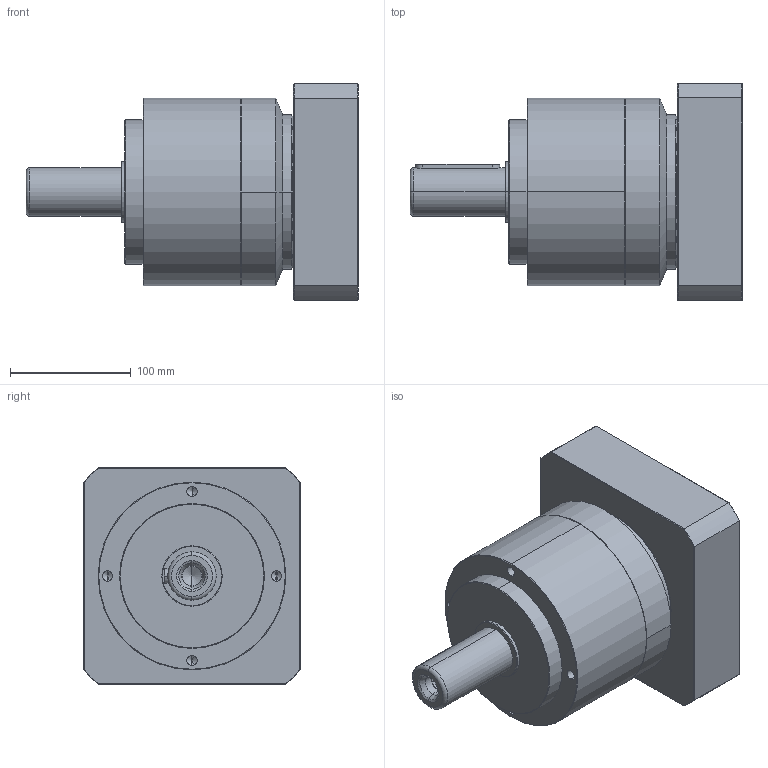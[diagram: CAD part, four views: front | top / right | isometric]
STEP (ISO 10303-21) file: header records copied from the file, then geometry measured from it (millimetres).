
FILE_DESCRIPTION (( 'STEP AP203' ), '1' );
FILE_NAME ('TCE155-L1-35-114.3-200-M12-91-15.STEP', '2020-11-24T08:15:49', ( '' ), ( '' ), 'SwSTEP 2.0', 'SolidWorks 2017', '' );
FILE_SCHEMA (( 'CONFIG_CONTROL_DESIGN' ));
Length unit declared in the file: millimetre
Products named in the file (1): TCE155-L1-35-114.3-200-M12-91-15
Bounding box: 275.2 x 180 x 180 mm (x, y, z)
Volume: 3878820.7 mm3; surface area: 243245.4 mm2
Topology: 3 solids, 3 shells, 159 faces, 346 edges, 195 vertices
Faces by surface type: cylinder 60, cone 56, plane 33, torus 10
Entity records: 4519 total; most frequent: CARTESIAN_POINT 982, DIRECTION 794, ORIENTED_EDGE 656, EDGE_CURVE 328, AXIS2_PLACEMENT_3D 327, VERTEX_POINT 195, EDGE_LOOP 183, CIRCLE 167
